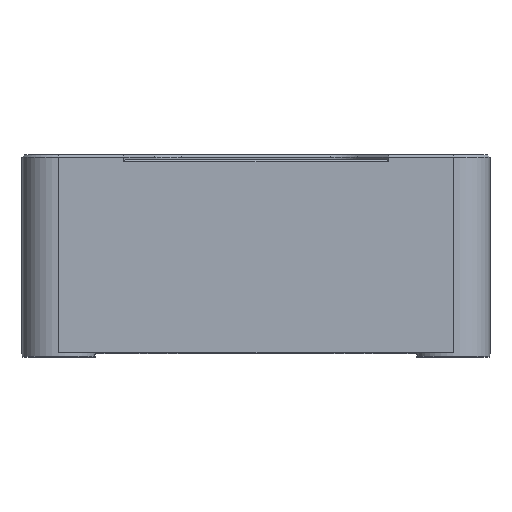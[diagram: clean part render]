
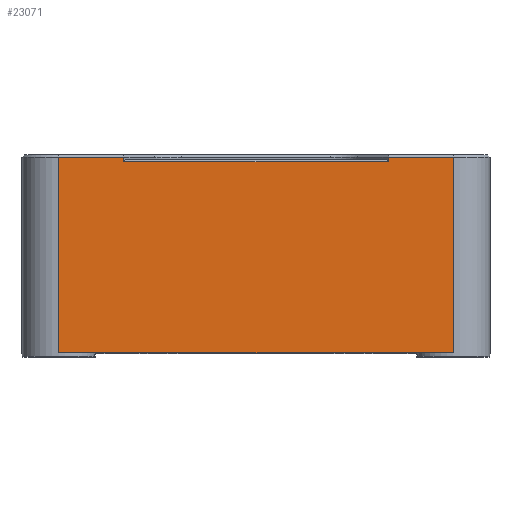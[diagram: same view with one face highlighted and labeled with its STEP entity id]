
A CAD part, top view. The second image highlights one B-rep face of the part: STEP entity #23071.
In plain terms, the highlighted planar face has unit normal (0, 0, 1).
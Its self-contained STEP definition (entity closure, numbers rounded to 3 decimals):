
#94 = VERTEX_POINT ( 'NONE', #3318 ) ;
#464 = EDGE_LOOP ( 'NONE', ( #11413, #1160, #2273, #19461, #15501, #3187, #27566, #21731 ) ) ;
#1153 = CARTESIAN_POINT ( 'NONE',  ( -10.75, 5.3, 14.75 ) ) ;
#1160 = ORIENTED_EDGE ( 'NONE', *, *, #23994, .T. ) ;
#2273 = ORIENTED_EDGE ( 'NONE', *, *, #24647, .T. ) ;
#2764 = EDGE_CURVE ( 'NONE', #4081, #20190, #12496, .T. ) ;
#3084 = CARTESIAN_POINT ( 'NONE',  ( -7.2, 15.95, 14.75 ) ) ;
#3187 = ORIENTED_EDGE ( 'NONE', *, *, #29118, .T. ) ;
#3318 = CARTESIAN_POINT ( 'NONE',  ( -7.2, 15.7, 14.75 ) ) ;
#3645 = CARTESIAN_POINT ( 'NONE',  ( -12.75, 15.95, 14.75 ) ) ;
#4081 = VERTEX_POINT ( 'NONE', #23278 ) ;
#5476 = FACE_OUTER_BOUND ( 'NONE', #464, .T. ) ;
#5554 = VERTEX_POINT ( 'NONE', #11808 ) ;
#6904 = CARTESIAN_POINT ( 'NONE',  ( 10.75, 5.3, 14.75 ) ) ;
#8118 = DIRECTION ( 'NONE',  ( -1., 0., 0. ) ) ;
#8437 = CARTESIAN_POINT ( 'NONE',  ( -7.2, 15.85, 14.75 ) ) ;
#8614 = DIRECTION ( 'NONE',  ( -1., 0., 0. ) ) ;
#9623 = LINE ( 'NONE', #10086, #17753 ) ;
#10086 = CARTESIAN_POINT ( 'NONE',  ( 7.2, 15.85, 14.75 ) ) ;
#10384 = VECTOR ( 'NONE', #18525, 1000. ) ;
#10589 = EDGE_CURVE ( 'NONE', #25895, #20190, #15085, .T. ) ;
#10592 = VECTOR ( 'NONE', #10931, 1000. ) ;
#10931 = DIRECTION ( 'NONE',  ( 0., 1., 0. ) ) ;
#11053 = VECTOR ( 'NONE', #8614, 1000. ) ;
#11413 = ORIENTED_EDGE ( 'NONE', *, *, #10589, .F. ) ;
#11808 = CARTESIAN_POINT ( 'NONE',  ( 7.2, 15.7, 14.75 ) ) ;
#12496 = LINE ( 'NONE', #12801, #29777 ) ;
#12760 = LINE ( 'NONE', #24825, #10592 ) ;
#12801 = CARTESIAN_POINT ( 'NONE',  ( -10.75, 16.1, 14.75 ) ) ;
#13148 = DIRECTION ( 'NONE',  ( -1., 0., 0. ) ) ;
#13510 = AXIS2_PLACEMENT_3D ( 'NONE', #28198, #24052, #28837 ) ;
#15085 = LINE ( 'NONE', #1153, #21433 ) ;
#15258 = CARTESIAN_POINT ( 'NONE',  ( -12.75, 15.95, 14.75 ) ) ;
#15360 = VERTEX_POINT ( 'NONE', #3084 ) ;
#15501 = ORIENTED_EDGE ( 'NONE', *, *, #28687, .T. ) ;
#15628 = LINE ( 'NONE', #25259, #10384 ) ;
#15894 = EDGE_CURVE ( 'NONE', #15360, #4081, #20633, .T. ) ;
#17240 = LINE ( 'NONE', #8437, #26506 ) ;
#17723 = VECTOR ( 'NONE', #13148, 1000. ) ;
#17753 = VECTOR ( 'NONE', #19243, 1000. ) ;
#18525 = DIRECTION ( 'NONE',  ( -1., 0., 0. ) ) ;
#18970 = CARTESIAN_POINT ( 'NONE',  ( -10.75, 5.3, 14.75 ) ) ;
#19243 = DIRECTION ( 'NONE',  ( 0., 1., 0. ) ) ;
#19316 = PLANE ( 'NONE',  #13510 ) ;
#19461 = ORIENTED_EDGE ( 'NONE', *, *, #29898, .F. ) ;
#20190 = VERTEX_POINT ( 'NONE', #18970 ) ;
#20633 = LINE ( 'NONE', #15258, #17723 ) ;
#21433 = VECTOR ( 'NONE', #8118, 1000. ) ;
#21731 = ORIENTED_EDGE ( 'NONE', *, *, #2764, .T. ) ;
#23071 = ADVANCED_FACE ( 'NONE', ( #5476 ), #19316, .F. ) ;
#23278 = CARTESIAN_POINT ( 'NONE',  ( -10.75, 15.95, 14.75 ) ) ;
#23994 = EDGE_CURVE ( 'NONE', #25895, #27454, #12760, .T. ) ;
#24052 = DIRECTION ( 'NONE',  ( 0., 0., -1. ) ) ;
#24254 = DIRECTION ( 'NONE',  ( 0., -1., 0. ) ) ;
#24493 = LINE ( 'NONE', #3645, #11053 ) ;
#24647 = EDGE_CURVE ( 'NONE', #27454, #24990, #24493, .T. ) ;
#24740 = CARTESIAN_POINT ( 'NONE',  ( 10.75, 15.95, 14.75 ) ) ;
#24825 = CARTESIAN_POINT ( 'NONE',  ( 10.75, 16.1, 14.75 ) ) ;
#24990 = VERTEX_POINT ( 'NONE', #26924 ) ;
#25259 = CARTESIAN_POINT ( 'NONE',  ( -12.75, 15.7, 14.75 ) ) ;
#25895 = VERTEX_POINT ( 'NONE', #6904 ) ;
#26506 = VECTOR ( 'NONE', #26916, 1000. ) ;
#26916 = DIRECTION ( 'NONE',  ( 0., 1., 0. ) ) ;
#26924 = CARTESIAN_POINT ( 'NONE',  ( 7.2, 15.95, 14.75 ) ) ;
#27454 = VERTEX_POINT ( 'NONE', #24740 ) ;
#27566 = ORIENTED_EDGE ( 'NONE', *, *, #15894, .T. ) ;
#28198 = CARTESIAN_POINT ( 'NONE',  ( -12.75, 16.1, 14.75 ) ) ;
#28687 = EDGE_CURVE ( 'NONE', #5554, #94, #15628, .T. ) ;
#28837 = DIRECTION ( 'NONE',  ( -1., 0., 0. ) ) ;
#29118 = EDGE_CURVE ( 'NONE', #94, #15360, #17240, .T. ) ;
#29777 = VECTOR ( 'NONE', #24254, 1000. ) ;
#29898 = EDGE_CURVE ( 'NONE', #5554, #24990, #9623, .T. ) ;
